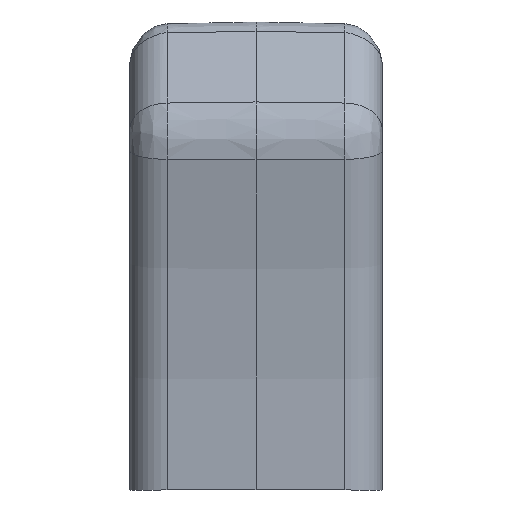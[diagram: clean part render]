
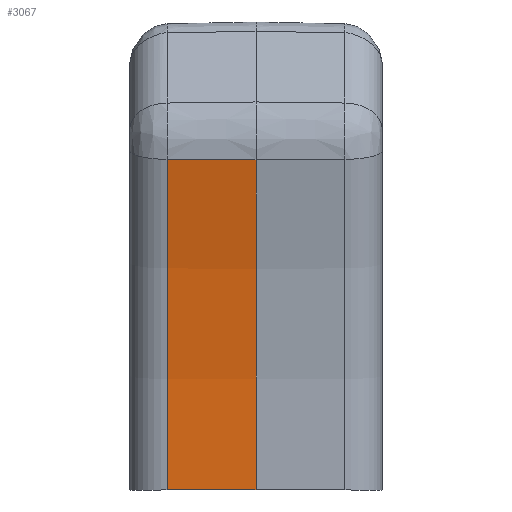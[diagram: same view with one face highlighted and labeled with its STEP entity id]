
A CAD part, front view. The second image highlights one B-rep face of the part: STEP entity #3067.
In plain terms, the highlighted conical face has half-angle 1 degrees and reference radius 56.655 mm.
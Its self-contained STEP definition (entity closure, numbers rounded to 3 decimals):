
#427=FACE_OUTER_BOUND('',#639,.T.);
#639=EDGE_LOOP('',(#2459,#2460,#2461,#2462));
#847=LINE('',#5807,#1034);
#848=LINE('',#5810,#1035);
#1034=VECTOR('',#4079,10.);
#1035=VECTOR('',#4082,10.);
#1192=CIRCLE('',#3337,56.717);
#1213=CIRCLE('',#3389,56.655);
#1406=VERTEX_POINT('',#5384);
#1407=VERTEX_POINT('',#5386);
#1433=VERTEX_POINT('',#5806);
#1434=VERTEX_POINT('',#5808);
#1731=EDGE_CURVE('',#1407,#1406,#1192,.T.);
#1790=EDGE_CURVE('',#1433,#1406,#847,.F.);
#1791=EDGE_CURVE('',#1433,#1434,#1213,.T.);
#1792=EDGE_CURVE('',#1434,#1407,#848,.T.);
#2459=ORIENTED_EDGE('',*,*,#1731,.T.);
#2460=ORIENTED_EDGE('',*,*,#1790,.F.);
#2461=ORIENTED_EDGE('',*,*,#1791,.T.);
#2462=ORIENTED_EDGE('',*,*,#1792,.T.);
#2953=CONICAL_SURFACE('',#3388,56.655,0.017);
#3067=ADVANCED_FACE('',(#427),#2953,.F.);
#3337=AXIS2_PLACEMENT_3D('',#5387,#3951,#3952);
#3388=AXIS2_PLACEMENT_3D('',#5805,#4077,#4078);
#3389=AXIS2_PLACEMENT_3D('',#5809,#4080,#4081);
#3951=DIRECTION('center_axis',(-1.,0.,0.));
#3952=DIRECTION('ref_axis',(0.,0.993,0.116));
#4077=DIRECTION('center_axis',(-1.,0.,0.));
#4078=DIRECTION('ref_axis',(0.,1.,0.));
#4079=DIRECTION('',(1.,-0.017,0.));
#4080=DIRECTION('center_axis',(1.,0.,0.));
#4081=DIRECTION('ref_axis',(0.,1.,0.));
#4082=DIRECTION('',(-1.,0.017,0.004));
#5384=CARTESIAN_POINT('',(-3.526,0.062,0.));
#5386=CARTESIAN_POINT('',(-3.526,-1.473,13.103));
#5387=CARTESIAN_POINT('Origin',(-3.526,-56.655,0.));
#5805=CARTESIAN_POINT('Origin',(0.,-56.655,0.));
#5806=CARTESIAN_POINT('',(0.,0.,0.));
#5807=CARTESIAN_POINT('',(0.,0.,0.));
#5808=CARTESIAN_POINT('',(0.,-1.533,13.089));
#5809=CARTESIAN_POINT('Origin',(0.,-56.655,0.));
#5810=CARTESIAN_POINT('',(0.,-1.533,13.089));
